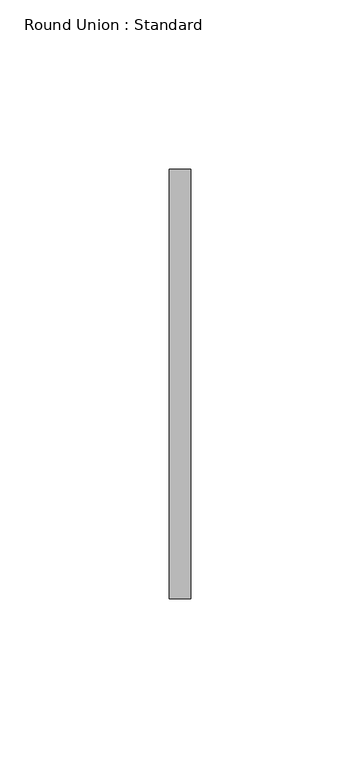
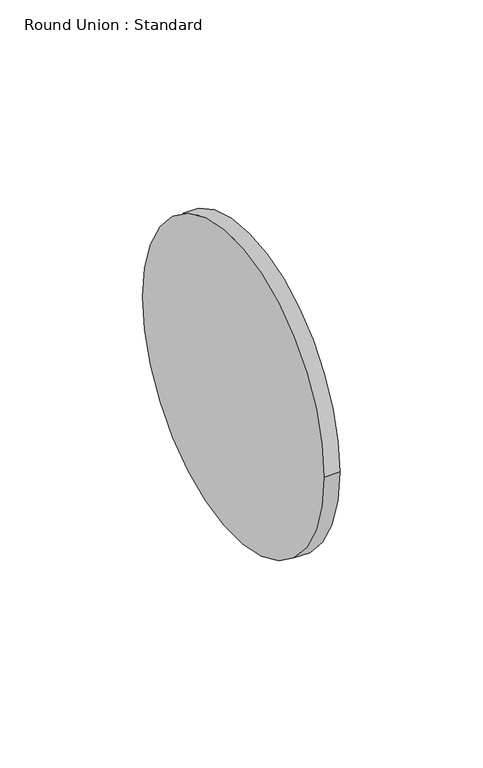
"""IFC4 building model written with IfcOpenShell, lengths in millimetres: duct fitting geometry, Round Union : Standard."""

from ifc_helpers import new_model, si_unit, point, frame, origin, origin_2d, place, context, project, spatial, circle_curve, trimmed, segment, composite_curve, outline, extrude, source, transform, mapped, element, save


def round_union_standard_bde99334(model_context):
    return source(origin(), model_context, "Body", "SweptSolid", [
        extrude(outline(composite_curve([segment(trimmed(circle_curve(origin_2d(), 63.5), [point((-63.5, 0.0))], [point((63.5, 0.0))], False, "CARTESIAN"), True, "CONTINUOUS"), segment(trimmed(circle_curve(origin_2d(), 63.5), [point((63.5, 0.0))], [point((-63.5, 0.0))], False, "CARTESIAN"), True, "CONTINUOUS")], self_intersect=False)), frame((0.0, 0.0, 0.0), z_axis=(1.0, 0.0, 0.0), x_axis=(0.0, 1.0, 0.0)), (0.0, 0.0, 1.0), 6.35),
    ])


if __name__ == "__main__":
    model = new_model("IFC4")
    model_context = context("Model", 3, world=origin())
    ifc_project = project(units=[si_unit("LENGTHUNIT", "METRE", prefix="MILLI")], contexts=[model_context])
    site = spatial("IfcSite", under=ifc_project)
    building = spatial("IfcBuilding", under=site)
    placement = place(None, origin())
    round_union_standard_shape = round_union_standard_bde99334(model_context)
    element("IfcDuctFitting", 1, ObjectType="Round Union : Standard", at=placement, inside=building, context=model_context, shape_type="MappedRepresentation", body=[
        mapped(round_union_standard_shape, transform((0.0, 0.0, 0.0), x_axis=(1.0, 0.0, 0.0), y_axis=(0.0, 1.0, 0.0), z_axis=(0.0, 0.0, 1.0))),
    ])
    save(model, "model.ifc")
